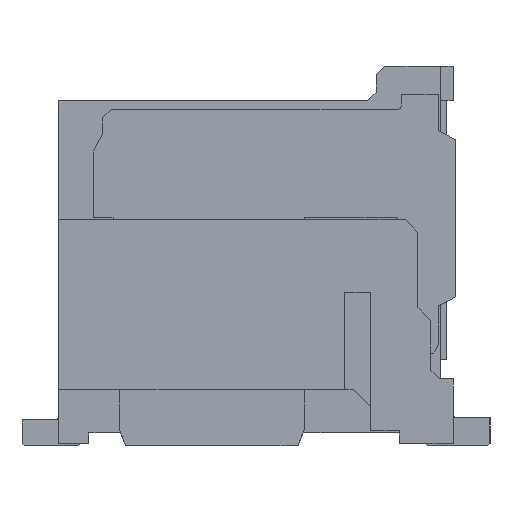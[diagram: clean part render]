
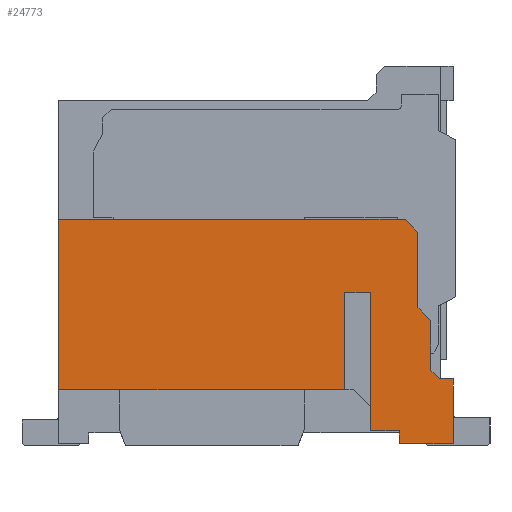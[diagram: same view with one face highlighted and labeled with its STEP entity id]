
A CAD part, left-side view. The second image highlights one B-rep face of the part: STEP entity #24773.
In plain terms, the highlighted planar face has unit normal (-1, 0, 0).
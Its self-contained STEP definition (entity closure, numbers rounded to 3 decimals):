
#41=DIRECTION('',(0.,-1.,0.));
#42=VECTOR('',#41,1.25);
#43=CARTESIAN_POINT('',(-14.9,-3.325,-4.375));
#44=LINE('',#43,#42);
#1542=DIRECTION('',(0.,0.,1.));
#1543=VECTOR('',#1542,1.5);
#1544=CARTESIAN_POINT('',(-14.9,-4.575,-4.375));
#1545=LINE('',#1544,#1543);
#2544=DIRECTION('',(0.,0.,-1.));
#2545=VECTOR('',#2544,3.2);
#2546=CARTESIAN_POINT('',(-14.9,-2.655,-0.875));
#2547=LINE('',#2546,#2545);
#2572=DIRECTION('',(0.,0.,1.));
#2573=VECTOR('',#2572,2.25);
#2574=CARTESIAN_POINT('',(-14.9,-2.055,-3.125));
#2575=LINE('',#2574,#2573);
#2576=DIRECTION('',(0.,-1.,0.));
#2577=VECTOR('',#2576,6.63);
#2578=CARTESIAN_POINT('',(-14.9,4.575,-3.125));
#2579=LINE('',#2578,#2577);
#2580=DIRECTION('',(0.,0.,1.));
#2581=VECTOR('',#2580,3.95);
#2582=CARTESIAN_POINT('',(-14.9,4.575,-3.125));
#2583=LINE('',#2582,#2581);
#2584=DIRECTION('',(0.,-1.,0.));
#2585=VECTOR('',#2584,8.03);
#2586=CARTESIAN_POINT('',(-14.9,4.575,0.825));
#2587=LINE('',#2586,#2585);
#2588=DIRECTION('',(0.,0.707,0.707));
#2589=VECTOR('',#2588,0.424);
#2590=CARTESIAN_POINT('',(-14.9,-3.755,0.525));
#2591=LINE('',#2590,#2589);
#2592=DIRECTION('',(0.,0.,1.));
#2593=VECTOR('',#2592,1.75);
#2594=CARTESIAN_POINT('',(-14.9,-3.755,-1.225));
#2595=LINE('',#2594,#2593);
#2596=DIRECTION('',(0.,0.707,0.707));
#2597=VECTOR('',#2596,0.424);
#2598=CARTESIAN_POINT('',(-14.9,-4.055,-1.525));
#2599=LINE('',#2598,#2597);
#2600=DIRECTION('',(0.,0.,1.));
#2601=VECTOR('',#2600,1.15);
#2602=CARTESIAN_POINT('',(-14.9,-4.055,-2.675));
#2603=LINE('',#2602,#2601);
#2604=DIRECTION('',(0.,0.707,0.707));
#2605=VECTOR('',#2604,0.283);
#2606=CARTESIAN_POINT('',(-14.9,-4.255,-2.875));
#2607=LINE('',#2606,#2605);
#2608=DIRECTION('',(0.,1.,0.));
#2609=VECTOR('',#2608,0.32);
#2610=CARTESIAN_POINT('',(-14.9,-4.575,-2.875));
#2611=LINE('',#2610,#2609);
#2612=DIRECTION('',(0.,0.,1.));
#2613=VECTOR('',#2612,0.3);
#2614=CARTESIAN_POINT('',(-14.9,-3.325,-4.375));
#2615=LINE('',#2614,#2613);
#2616=DIRECTION('',(0.,1.,0.));
#2617=VECTOR('',#2616,0.67);
#2618=CARTESIAN_POINT('',(-14.9,-3.325,-4.075));
#2619=LINE('',#2618,#2617);
#2620=DIRECTION('',(0.,-1.,0.));
#2621=VECTOR('',#2620,0.6);
#2622=CARTESIAN_POINT('',(-14.9,-2.055,-0.875));
#2623=LINE('',#2622,#2621);
#16833=CARTESIAN_POINT('',(-14.9,-4.575,-2.875));
#16834=CARTESIAN_POINT('',(-14.9,-4.255,-2.875));
#16835=VERTEX_POINT('',#16833);
#16836=VERTEX_POINT('',#16834);
#16837=CARTESIAN_POINT('',(-14.9,-4.055,-2.675));
#16838=VERTEX_POINT('',#16837);
#16839=CARTESIAN_POINT('',(-14.9,-4.055,-1.525));
#16840=VERTEX_POINT('',#16839);
#16841=CARTESIAN_POINT('',(-14.9,-3.755,-1.225));
#16842=VERTEX_POINT('',#16841);
#16843=CARTESIAN_POINT('',(-14.9,-3.755,0.525));
#16844=VERTEX_POINT('',#16843);
#16845=CARTESIAN_POINT('',(-14.9,-3.455,0.825));
#16846=VERTEX_POINT('',#16845);
#16847=CARTESIAN_POINT('',(-14.9,4.575,0.825));
#16848=VERTEX_POINT('',#16847);
#16865=CARTESIAN_POINT('',(-14.9,-4.575,-4.375));
#16866=VERTEX_POINT('',#16865);
#16867=CARTESIAN_POINT('',(-14.9,4.575,-3.125));
#16868=VERTEX_POINT('',#16867);
#16896=CARTESIAN_POINT('',(-14.9,-2.655,-4.075));
#16898=VERTEX_POINT('',#16896);
#16901=CARTESIAN_POINT('',(-14.9,-3.325,-4.375));
#16902=VERTEX_POINT('',#16901);
#16904=CARTESIAN_POINT('',(-14.9,-3.325,-4.075));
#16906=VERTEX_POINT('',#16904);
#17271=CARTESIAN_POINT('',(-14.9,-2.055,-3.125));
#17272=CARTESIAN_POINT('',(-14.9,-2.055,-0.875));
#17273=VERTEX_POINT('',#17271);
#17274=VERTEX_POINT('',#17272);
#17275=CARTESIAN_POINT('',(-14.9,-2.655,-0.875));
#17276=VERTEX_POINT('',#17275);
#24743=CARTESIAN_POINT('',(-14.9,4.575,-4.375));
#24744=DIRECTION('',(-1.,0.,0.));
#24745=DIRECTION('',(0.,-1.,0.));
#24746=AXIS2_PLACEMENT_3D('',#24743,#24744,#24745);
#24747=PLANE('',#24746);
#24748=ORIENTED_EDGE('',*,*,#24734,.F.);
#24749=ORIENTED_EDGE('',*,*,#23111,.F.);
#24750=ORIENTED_EDGE('',*,*,#21989,.T.);
#24751=ORIENTED_EDGE('',*,*,#22955,.T.);
#24753=ORIENTED_EDGE('',*,*,#24752,.F.);
#24755=ORIENTED_EDGE('',*,*,#24754,.F.);
#24757=ORIENTED_EDGE('',*,*,#24756,.F.);
#24759=ORIENTED_EDGE('',*,*,#24758,.F.);
#24761=ORIENTED_EDGE('',*,*,#24760,.F.);
#24762=ORIENTED_EDGE('',*,*,#23218,.F.);
#24763=ORIENTED_EDGE('',*,*,#23263,.F.);
#24764=ORIENTED_EDGE('',*,*,#21904,.F.);
#24766=ORIENTED_EDGE('',*,*,#24765,.T.);
#24767=ORIENTED_EDGE('',*,*,#24648,.T.);
#24768=ORIENTED_EDGE('',*,*,#24694,.F.);
#24770=ORIENTED_EDGE('',*,*,#24769,.F.);
#24771=EDGE_LOOP('',(#24748,#24749,#24750,#24751,#24753,#24755,#24757,#24759,
#24761,#24762,#24763,#24764,#24766,#24767,#24768,#24770));
#24772=FACE_OUTER_BOUND('',#24771,.F.);
#24773=ADVANCED_FACE('',(#24772),#24747,.T.);
#21904=EDGE_CURVE('',#16902,#16866,#44,.T.);
#21989=EDGE_CURVE('',#16868,#16848,#2583,.T.);
#22955=EDGE_CURVE('',#16848,#16846,#2587,.T.);
#23111=EDGE_CURVE('',#16868,#17273,#2579,.T.);
#23218=EDGE_CURVE('',#16835,#16836,#2611,.T.);
#23263=EDGE_CURVE('',#16866,#16835,#1545,.T.);
#24648=EDGE_CURVE('',#16906,#16898,#2619,.T.);
#24694=EDGE_CURVE('',#17276,#16898,#2547,.T.);
#24734=EDGE_CURVE('',#17273,#17274,#2575,.T.);
#24752=EDGE_CURVE('',#16844,#16846,#2591,.T.);
#24754=EDGE_CURVE('',#16842,#16844,#2595,.T.);
#24756=EDGE_CURVE('',#16840,#16842,#2599,.T.);
#24758=EDGE_CURVE('',#16838,#16840,#2603,.T.);
#24760=EDGE_CURVE('',#16836,#16838,#2607,.T.);
#24765=EDGE_CURVE('',#16902,#16906,#2615,.T.);
#24769=EDGE_CURVE('',#17274,#17276,#2623,.T.);
